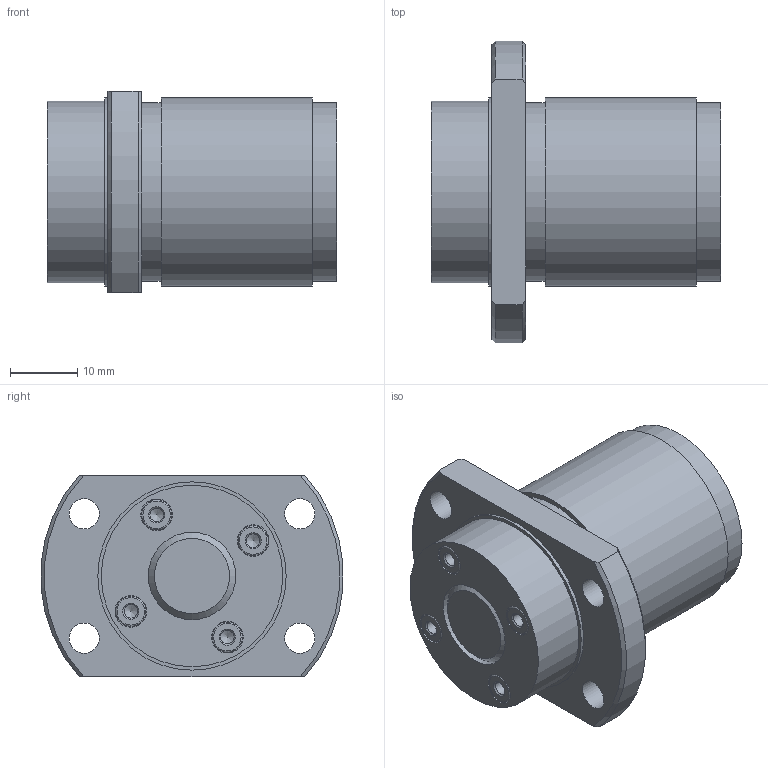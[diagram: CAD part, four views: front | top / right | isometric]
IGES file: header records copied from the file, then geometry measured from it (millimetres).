
Start section: Data from Parasolid IGES Translator 26.0.171, Copyright(c) 2006 Siemens PLM Software. All Rights Reserved.
Global section: file name: WGF1320-3G1+43LC3_0_13_0_0.igs; native system: By Siemens PLM Incorporated; preprocessor: XPlus GENERIC/IGES 26.0.171; author: Noname; organization: Noname; date: 20250116.062438; units: millimetre
Bounding box: 43 x 44.85 x 30 mm (x, y, z)
Surface area: 10462.1 mm2 (no closed solid volume)
Topology: 0 solids, 0 shells, 62 faces, 254 edges, 198 vertices
Faces by surface type: revolution 43, extrusion 19
